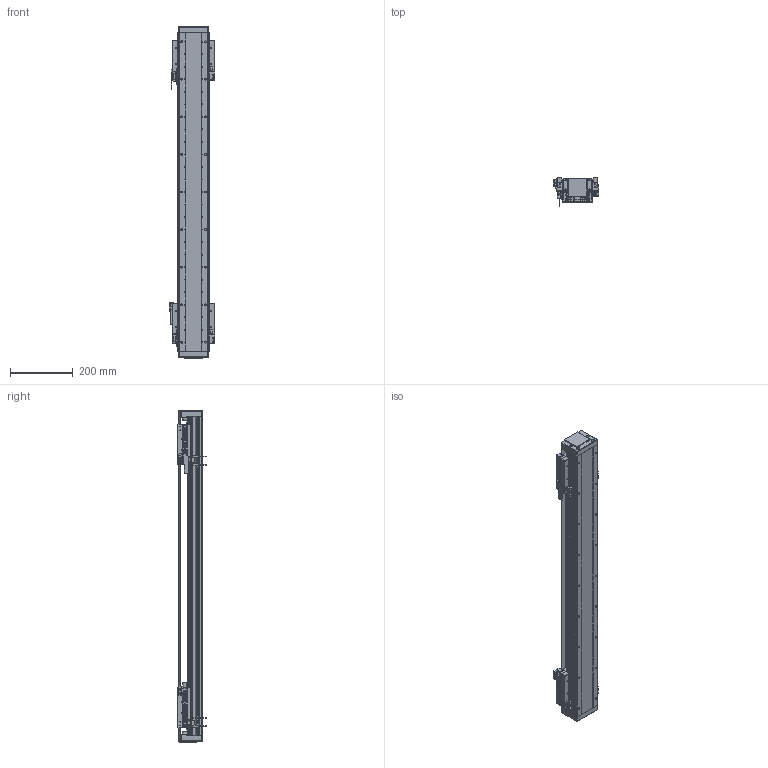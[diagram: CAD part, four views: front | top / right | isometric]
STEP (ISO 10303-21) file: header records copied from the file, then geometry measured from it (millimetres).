
FILE_DESCRIPTION (( 'STEP AP203' ), '1' );
FILE_NAME ('DA-B95-2-B15-T680-C010-0.2 直线电机.STEP', '2023-05-06T06:26:04', ( '微软用户' ), ( '微软中国' ), 'SwSTEP 2.0', 'SolidWorks 2019', '' );
FILE_SCHEMA (( 'CONFIG_CONTROL_DESIGN' ));
Length unit declared in the file: millimetre
Products named in the file (32): 复件 DA95-MFP-01 密封片^66245-BU95-V 滚珠滑台; 葩璃 BKM015-W060-C1-TP-DA-0.2^DA-A95-B15-T-C010-0.2-N 眻盄萇儂; IU-BU95-L-00 菁釱_L1020; 复件 DA95-DK-00 挡块^66245-BU95-V 滚珠滑台; 复件 六角薄螺母 M3^DA-A95-B15-T-C010-0.2-N 直线电机_GB_FASTENER_NUT_STNAB M3-C; ｸｴｼ DA95-Txxx-002-00 ｸﾇｰ蘓DA-A95-B15-T-C010-0.2-N ﾖｱﾏﾟｵ扈銈T+30; 葩璃 DA95-B15-DP-A-00 菜えA^66245-BU95-V 幗紩賑怢; B15 XD-U-02L ｴﾅﾕ､ｳﾟ^DA-A95-B15-T-C010-0.2-N ﾖｱﾏﾟｵ扈銈XD-U-02L; 葩璃 BKMA01-W060-TRL^DA-A95-B15-T-C010-0.2-N 眻盄萇儂; 复件 DA95-B15-YB-B-00 压板B^66245-BU95-V 滚珠滑台; 66245-BU95-V-00 珨极趙賑雄怢啣; LMDK-2-R001-V5-L02-C1-F00，0.2M 读数头^DA-A95-B15-T-C010-0.2-N 直线电机_DMA-010-0.2; DA-A95-GYP-00 光电感应片^DA-A95-B15-T-C010-0.2-N 直线电机; 葩璃 PM-Y45^DA-A95-B15-T-C010-0.2-N 眻盄萇儂; IU-BU95-L 菁釱絳寢; DA95-HXJ-00 缓冲橡胶^DA-A95-B15-T-C010-0.2-N 直线电机; 葩璃 DA95-GT-T-00^IU-BU95-L 菁釱絳寢_DA95; PM-T45 光电开关^DA-A95-B15-T-C010-0.2-N 直线电机; 66245-BU95-V 幗紩賑怢; 复件 DKW-GYP-ZJ-00 中间光电感应片^DA-A95-B15-T-C010-0.2-N 直线电机; 复件 纯铜油杯 6x6mm^66245-BU95-V 滚珠滑台; 复件 DA95-B15-YB-A-00 压板A^66245-BU95-V 滚珠滑台; DA-B95-2-B15-T680-C010-0.2 眻盄萇儂; 葩璃 DA95-B15-DP--B-00 菜えB^66245-BU95-V 幗紩賑怢; 复件 66245-BU95-HT-V-01 滑动台板^66245-BU95-V-00 一体化滑动台板; DA95-DG-H-01^DA-A95-B15-T-C010-0.2-N 眻盄萇儂; 复件 DKW-HXJ-JY-00 缓冲橡胶^DA-A95-B15-T-C010-0.2-N 直线电机; 复件 DA95-DB-00  挡板^66245-BU95-V 滚珠滑台; 复件 DA95-HK-GT-00 滑块钢轨^66245-BU95-V-00 一体化滑动台板; 复件 DKW-KGZ-ZJ-00 中间光电开关支架^DA-A95-B15-T-C010-0.2-N 直线电机
Assembly tree (76 placements, depth 4):
  DA-B95-2-B15-T680-C010-0.2 眻盄萇儂
    IU-BU95-L 菁釱絳寢
      IU-BU95-L-00 菁釱_L1020
      葩璃 DA95-GT-T-00^IU-BU95-L 菁釱絳寢_DA95  x2
    66245-BU95-V 幗紩賑怢
      66245-BU95-V-00 珨极趙賑雄怢啣
        复件 66245-BU95-HT-V-01 滑动台板^66245-BU95-V-00 一体化滑动台板
        复件 DA95-HK-GT-00 滑块钢轨^66245-BU95-V-00 一体化滑动台板  x2
      葩璃 DA95-B15-DP-A-00 菜えA^66245-BU95-V 幗紩賑怢
      复件 DA95-B15-YB-A-00 压板A^66245-BU95-V 滚珠滑台
      复件 DA95-B15-YB-B-00 压板B^66245-BU95-V 滚珠滑台
      复件 DA95-DB-00  挡板^66245-BU95-V 滚珠滑台  x4
      复件 DA95-DK-00 挡块^66245-BU95-V 滚珠滑台  x2
      复件 DA95-MFP-01 密封片^66245-BU95-V 滚珠滑台  x4
      复件 纯铜油杯 6x6mm^66245-BU95-V 滚珠滑台  x2
      葩璃 DA95-B15-DP--B-00 菜えB^66245-BU95-V 幗紩賑怢
    66245-BU95-V 幗紩賑怢
      66245-BU95-V-00 珨极趙賑雄怢啣
        复件 66245-BU95-HT-V-01 滑动台板^66245-BU95-V-00 一体化滑动台板
        复件 DA95-HK-GT-00 滑块钢轨^66245-BU95-V-00 一体化滑动台板  x2
      葩璃 DA95-B15-DP-A-00 菜えA^66245-BU95-V 幗紩賑怢
      复件 DA95-B15-YB-A-00 压板A^66245-BU95-V 滚珠滑台
      复件 DA95-B15-YB-B-00 压板B^66245-BU95-V 滚珠滑台
      复件 DA95-DB-00  挡板^66245-BU95-V 滚珠滑台  x4
      复件 DA95-DK-00 挡块^66245-BU95-V 滚珠滑台  x2
      复件 DA95-MFP-01 密封片^66245-BU95-V 滚珠滑台  x4
      复件 纯铜油杯 6x6mm^66245-BU95-V 滚珠滑台  x2
      葩璃 DA95-B15-DP--B-00 菜えB^66245-BU95-V 幗紩賑怢
    DA-A95-GYP-00 光电感应片^DA-A95-B15-T-C010-0.2-N 直线电机  x2
    LMDK-2-R001-V5-L02-C1-F00，0.2M 读数头^DA-A95-B15-T-C010-0.2-N 直线电机_DMA-010-0.2  x2
    复件 DKW-KGZ-ZJ-00 中间光电开关支架^DA-A95-B15-T-C010-0.2-N 直线电机
    葩璃 PM-Y45^DA-A95-B15-T-C010-0.2-N 眻盄萇儂
    复件 DKW-GYP-ZJ-00 中间光电感应片^DA-A95-B15-T-C010-0.2-N 直线电机
    葩璃 BKM015-W060-C1-TP-DA-0.2^DA-A95-B15-T-C010-0.2-N 眻盄萇儂  x2
    复件 DKW-HXJ-JY-00 缓冲橡胶^DA-A95-B15-T-C010-0.2-N 直线电机  x2
    PM-T45 光电开关^DA-A95-B15-T-C010-0.2-N 直线电机  x4
    B15 XD-U-02L ｴﾅﾕ､ｳﾟ^DA-A95-B15-T-C010-0.2-N ﾖｱﾏﾟｵ扈銈XD-U-02L
    DA95-DG-H-01^DA-A95-B15-T-C010-0.2-N 眻盄萇儂  x2
    ｸｴｼ DA95-Txxx-002-00 ｸﾇｰ蘓DA-A95-B15-T-C010-0.2-N ﾖｱﾏﾟｵ扈銈T+30
    DA95-HXJ-00 缓冲橡胶^DA-A95-B15-T-C010-0.2-N 直线电机  x4
    葩璃 BKMA01-W060-TRL^DA-A95-B15-T-C010-0.2-N 眻盄萇儂
    复件 六角薄螺母 M3^DA-A95-B15-T-C010-0.2-N 直线电机_GB_FASTENER_NUT_STNAB M3-C  x6
Bounding box: 145.4 x 90.2 x 1060 mm (x, y, z)
Volume: 4447416.1 mm3; surface area: 1357970.1 mm2
Topology: 71 solids, 89 shells, 4290 faces, 11128 edges, 6861 vertices
Faces by surface type: cylinder 1860, plane 1478, cone 544, bspline 344, torus 60, sphere 4
Entity records: 86497 total; most frequent: CARTESIAN_POINT 24252, ORIENTED_EDGE 12194, DIRECTION 11935, EDGE_CURVE 6097, AXIS2_PLACEMENT_3D 4463, VERTEX_POINT 3876, LINE 3009, VECTOR 3009
